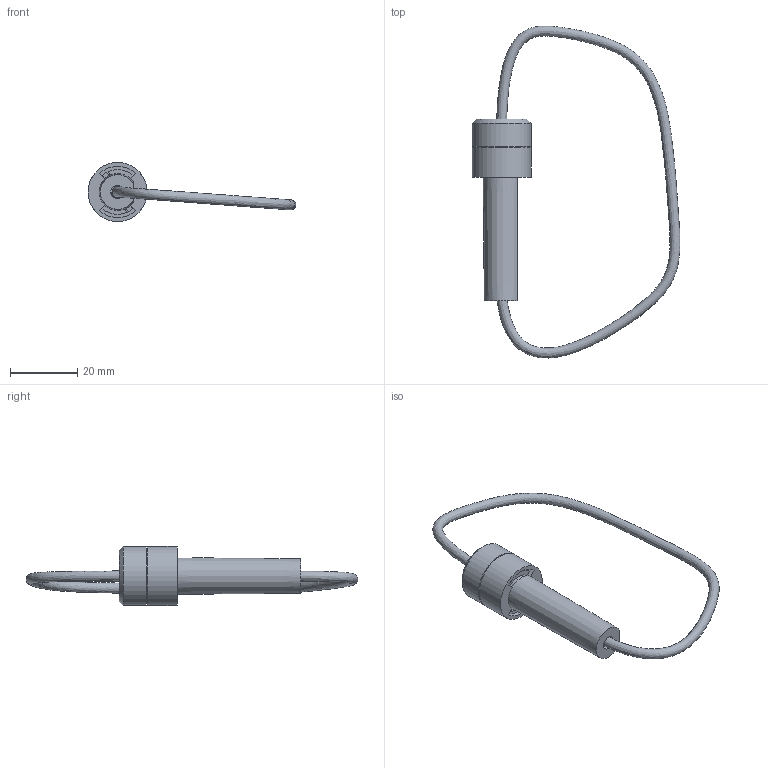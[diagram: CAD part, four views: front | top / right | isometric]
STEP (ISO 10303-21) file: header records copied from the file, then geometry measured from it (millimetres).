
FILE_DESCRIPTION(/* description */ (''),/* implementation_level */ '2;1');
FILE_NAME(/* name */ 'C:\Users\Hani\Desktop\work\LPC-24\LPC-24.stp',/* time_stamp */ '2021-07-23T13:51:13-07:00',/* author */ ('Hani'),/* organization */ (''),/* preprocessor_version */ 'ST-DEVELOPER v17',/* originating_system */ 'Autodesk Inventor 2019',/* authorisation */ '');
FILE_SCHEMA (('AUTOMOTIVE_DESIGN { 1 0 10303 214 3 1 1 }'));
Length unit declared in the file: inch
Products named in the file (5): LPC-24; LPC-24_1; LPC-24-Top; Spring; wire
Assembly tree (4 placements, depth 2):
  LPC-24
    LPC-24_1
    LPC-24-Top
    Spring
    wire
Bounding box: 61.69 x 98.53 x 17.53 mm (x, y, z)
Volume: 6477.4 mm3; surface area: 7378.7 mm2
Topology: 4 solids, 4 shells, 207 faces, 536 edges, 352 vertices
Faces by surface type: plane 112, bspline 75, cylinder 18, cone 2
Full cylindrical faces by diameter (mm): 2.997 x1, 4.064 x2, 7.239 x1, 7.62 x1, 10.541 x1, 13.335 x2, 17.526 x2
Entity records: 14613 total; most frequent: CARTESIAN_POINT 9796, ORIENTED_EDGE 1072, DIRECTION 737, EDGE_CURVE 536, VERTEX_POINT 352, LINE 317, VECTOR 317, EDGE_LOOP 230
